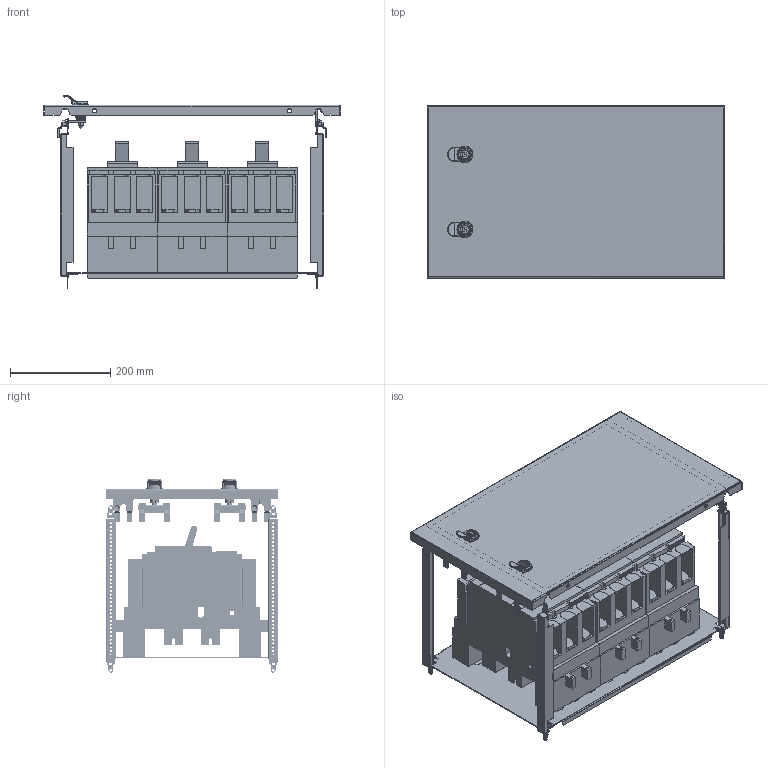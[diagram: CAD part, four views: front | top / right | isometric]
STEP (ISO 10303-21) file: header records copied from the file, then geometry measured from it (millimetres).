
FILE_DESCRIPTION(('CAx-IF Rec.Pracs.---Model Styling and Organization---1.2---2011-12-15','CAx-IF Rec.Pracs.---Geometric and Assembly Validation Properties---4.1---2014-06-16','CAx-IF Rec.Pracs.---PMI Polyline Presentation---2.0---2013-05-24'),'2;1');
FILE_NAME('R5PKEB7V62116 (P).stp','2021-07-29T02:36:26+03:00',(''),(''),'STEP Interface 4.4 by CT CoreTechnologie','3D_Evolution4.4 by CT CoreTechnologie','');
FILE_SCHEMA(('AUTOMOTIVE_DESIGN { 1 0 10303 214 1 1 1 1 }'));
Length unit declared in the file: millimetre
Products named in the file (1): R5PKEB7V62116 (P)
Bounding box: 594 x 345 x 386.9 mm (x, y, z)
Surface area: 2460531.5 mm2 (no closed solid volume)
Topology: 0 solids, 101 shells, 4455 faces, 12276 edges, 8021 vertices
Faces by surface type: plane 2108, cylinder 1436, bspline 911
Entity records: 158198 total; most frequent: CARTESIAN_POINT 44582, ORIENTED_EDGE 24342, DIRECTION 22996, EDGE_CURVE 12198, VERTEX_POINT 8027, AXIS2_PLACEMENT_3D 7699, VECTOR 7598, LINE 7598
